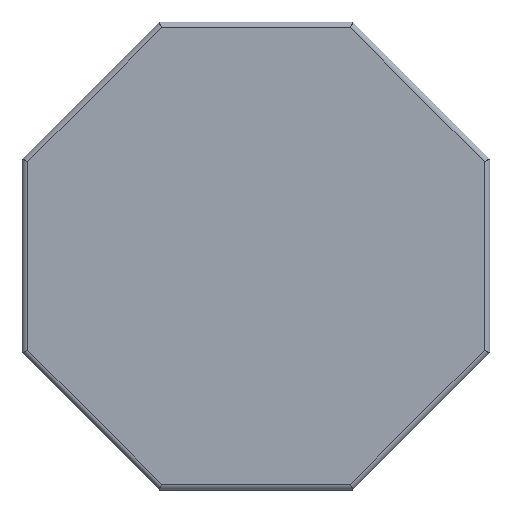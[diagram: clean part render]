
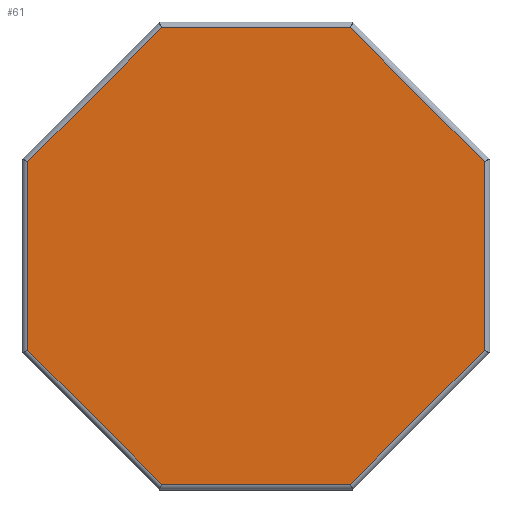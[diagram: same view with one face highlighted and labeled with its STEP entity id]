
A CAD part, top view. The second image highlights one B-rep face of the part: STEP entity #61.
In plain terms, the highlighted planar face has unit normal (0, 0, 1).
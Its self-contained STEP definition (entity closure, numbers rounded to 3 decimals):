
#61=ADVANCED_FACE('Pad.2',(#124),#125,.T.);
#124=FACE_OUTER_BOUND('',#186,.T.);
#125=PLANE('',#187);
#186=EDGE_LOOP('',(#291,#292,#293,#294,#295,#296,#297,#298));
#187=AXIS2_PLACEMENT_3D('',#299,#300,#301);
#291=ORIENTED_EDGE('',*,*,#401,.T.);
#292=ORIENTED_EDGE('',*,*,#402,.T.);
#293=ORIENTED_EDGE('',*,*,#403,.T.);
#294=ORIENTED_EDGE('',*,*,#404,.T.);
#295=ORIENTED_EDGE('',*,*,#405,.T.);
#296=ORIENTED_EDGE('',*,*,#406,.T.);
#297=ORIENTED_EDGE('',*,*,#407,.T.);
#298=ORIENTED_EDGE('',*,*,#408,.T.);
#299=CARTESIAN_POINT('',(0.0,0.0,2.0));
#300=DIRECTION('',(0.0,0.0,1.0));
#301=DIRECTION('',(1.0,0.0,0.0));
#401=EDGE_CURVE('',#476,#477,#478,.T.);
#402=EDGE_CURVE('',#477,#479,#480,.T.);
#403=EDGE_CURVE('',#479,#481,#482,.T.);
#404=EDGE_CURVE('',#481,#483,#484,.T.);
#405=EDGE_CURVE('',#483,#485,#486,.T.);
#406=EDGE_CURVE('',#485,#487,#488,.T.);
#407=EDGE_CURVE('',#487,#489,#490,.T.);
#408=EDGE_CURVE('',#489,#476,#491,.T.);
#476=VERTEX_POINT('',#583);
#477=VERTEX_POINT('',#584);
#478=LINE('',#585,#586);
#479=VERTEX_POINT('',#587);
#480=LINE('',#588,#589);
#481=VERTEX_POINT('',#590);
#482=LINE('',#591,#592);
#483=VERTEX_POINT('',#593);
#484=LINE('',#594,#595);
#485=VERTEX_POINT('',#596);
#486=LINE('',#597,#598);
#487=VERTEX_POINT('',#599);
#488=LINE('',#600,#601);
#489=VERTEX_POINT('',#602);
#490=LINE('',#603,#604);
#491=LINE('',#605,#606);
#583=CARTESIAN_POINT('',(16.154,39.0,2.0));
#584=CARTESIAN_POINT('',(-16.154,39.0,2.0));
#585=CARTESIAN_POINT('',(0.,39.0,2.0));
#586=VECTOR('',#760,1.0);
#587=CARTESIAN_POINT('',(-39.0,16.154,2.0));
#588=CARTESIAN_POINT('',(-27.577,27.577,2.0));
#589=VECTOR('',#761,1.0);
#590=CARTESIAN_POINT('',(-39.0,-16.154,2.0));
#591=CARTESIAN_POINT('',(-39.0,0.0,2.0));
#592=VECTOR('',#762,1.0);
#593=CARTESIAN_POINT('',(-16.154,-39.0,2.0));
#594=CARTESIAN_POINT('',(-27.577,-27.577,2.0));
#595=VECTOR('',#763,1.0);
#596=CARTESIAN_POINT('',(16.154,-39.0,2.0));
#597=CARTESIAN_POINT('',(0.,-39.0,2.0));
#598=VECTOR('',#764,1.0);
#599=CARTESIAN_POINT('',(39.0,-16.154,2.0));
#600=CARTESIAN_POINT('',(27.577,-27.577,2.0));
#601=VECTOR('',#765,1.0);
#602=CARTESIAN_POINT('',(39.0,16.154,2.0));
#603=CARTESIAN_POINT('',(39.0,0.,2.0));
#604=VECTOR('',#766,1.0);
#605=CARTESIAN_POINT('',(27.577,27.577,2.0));
#606=VECTOR('',#767,1.0);
#760=DIRECTION('',(-1.0,0.0,0.0));
#761=DIRECTION('',(-0.707,-0.707,0.0));
#762=DIRECTION('',(0.0,-1.0,0.0));
#763=DIRECTION('',(0.707,-0.707,0.0));
#764=DIRECTION('',(1.0,0.0,0.0));
#765=DIRECTION('',(0.707,0.707,0.0));
#766=DIRECTION('',(0.0,1.0,0.0));
#767=DIRECTION('',(-0.707,0.707,0.0));
